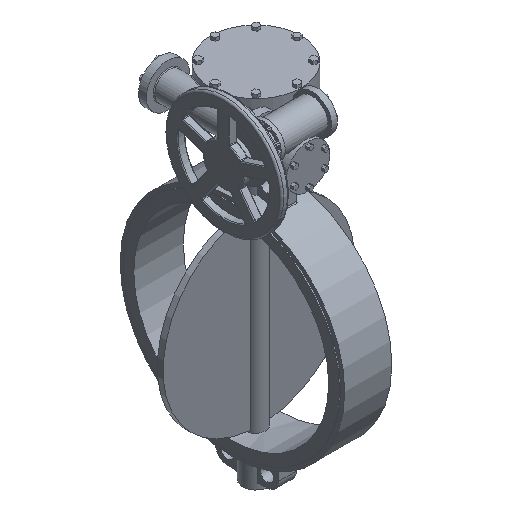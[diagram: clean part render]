
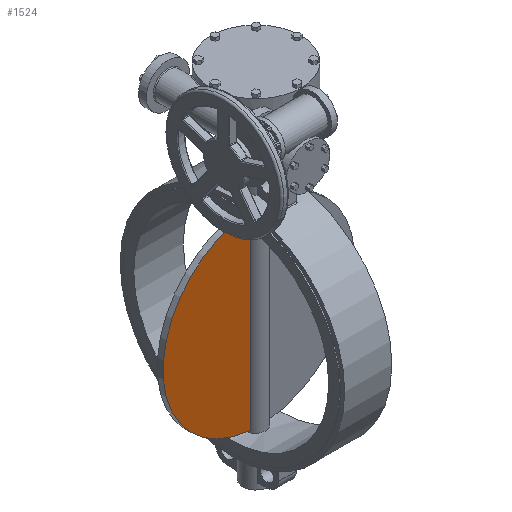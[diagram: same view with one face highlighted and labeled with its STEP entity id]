
A CAD part, isometric view. The second image highlights one B-rep face of the part: STEP entity #1524.
In plain terms, the highlighted planar face has unit normal (0, -1, 0).
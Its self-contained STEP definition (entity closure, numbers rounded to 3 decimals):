
#1524=ADVANCED_FACE('',(#7588),#7590,.T.);
#7588=FACE_BOUND('',#7589,.T.);
#7589=EDGE_LOOP('',(#11688,#11689));
#7590=PLANE('',#7591);
#7591=AXIS2_PLACEMENT_3D('',#7592,#7593,#7594);
#7592=CARTESIAN_POINT('',(0.,-7.5,0.));
#7593=DIRECTION('',(0.,-1.,0.));
#7594=DIRECTION('',(0.,0.,1.));
#11688=ORIENTED_EDGE('',*,*,#14197,.T.);
#11689=ORIENTED_EDGE('',*,*,#14303,.T.);
#14197=EDGE_CURVE('',#15939,#15936,#15940,.F.);
#14303=EDGE_CURVE('',#15936,#15939,#16147,.T.);
#15936=VERTEX_POINT('',#20349);
#15939=VERTEX_POINT('',#20393);
#15940=LINE('',#20394,#20395);
#16147=CIRCLE('',#20859,245.82);
#20349=CARTESIAN_POINT('',(-22.798,-7.5,244.761));
#20393=CARTESIAN_POINT('',(-22.798,-7.5,-244.761));
#20394=CARTESIAN_POINT('',(-22.798,-7.5,244.761));
#20395=VECTOR('',#20396,1.);
#20396=DIRECTION('',(0.,0.,-1.));
#20859=AXIS2_PLACEMENT_3D('',#20860,#20861,#20862);
#20860=CARTESIAN_POINT('',(0.,-7.5,0.));
#20861=DIRECTION('',(0.,-1.,0.));
#20862=DIRECTION('',(-0.093,0.,0.996));
